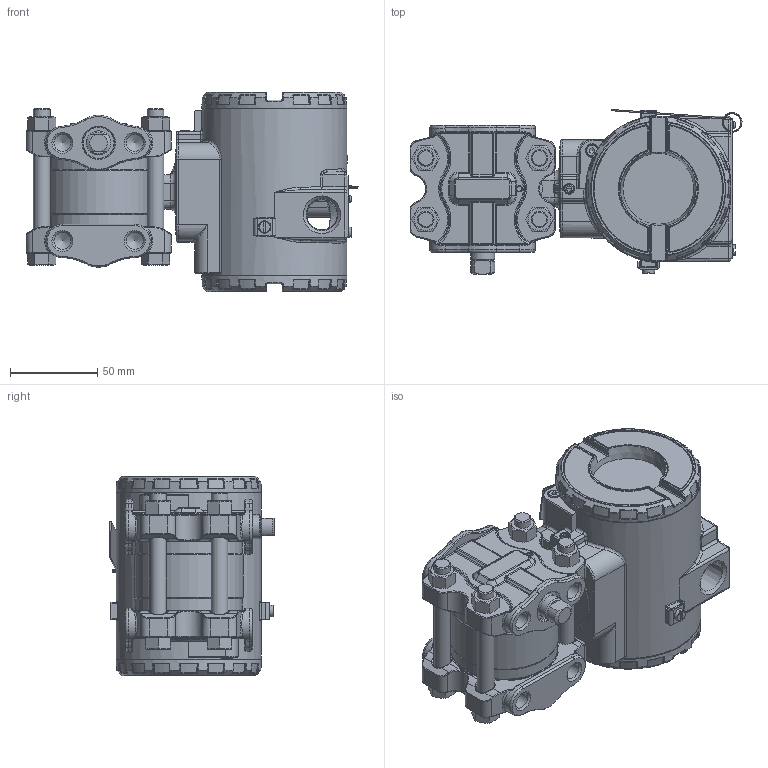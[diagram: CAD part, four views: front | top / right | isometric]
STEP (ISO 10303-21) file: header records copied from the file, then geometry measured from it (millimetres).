
FILE_DESCRIPTION(/* description */ (''),/* implementation_level */ '2;1');
FILE_NAME(/* name */ 'F:\Area\Desenvolvimento_2\Projects\Sensor\projetos\LD30X\montagens 3d - clientes\LD30XA4 1-4NPT sem purga.stp',/* time_stamp */ '2023-01-26T11:13:19-03:00',/* author */ ('inventor02'),/* organization */ (''),/* preprocessor_version */ 'ST-DEVELOPER v17',/* originating_system */ 'Autodesk Inventor 2019',/* authorisation */ '');
FILE_SCHEMA (('CONFIG_CONTROL_DESIGN'));
Length unit declared in the file: millimetre
Products named in the file (29): LD30XA4 1-4NPT sem purga; manometrico standard fx4 sem purga; Flange manometrico standard; flange diferencial std sem purga; bujao 1-4NPT; involucro fx4 apos a usinagem final; Paraf. 3-8 x 16 UNC; Porca 3-8 x 16 UNC; carcaça vazia com tampas e plaqueta; carcaça LD inox sem letras; Subconjunto plaqueta 300; Plaqueta transmissor; Parafuso da Plaqueta; Rebite da Plaqueta; 096-A-0169-03; 101-A-0502-01; Chapa aterramento externo; ISO 1207 - M4 x 8; DIN 915 - M6 x 10; ANSI B18.3.1M - M4x0,7 x 8; Subconjunto tampa com visor aluminio; tampa pintada; VIDRO DO VISOR; oring 41x1 vidro tampa; Trava do vidro da tampa com visor; trava do vidro VH256; Subconjunto tampa sem visor-aluminio; tampa cega 300 pintada p0; 00034775-0
Assembly tree (36 placements, depth 4):
  LD30XA4 1-4NPT sem purga
    manometrico standard fx4 sem purga
      Flange manometrico standard
      flange diferencial std sem purga
      bujao 1-4NPT
      involucro fx4 apos a usinagem final
      Paraf. 3-8 x 16 UNC  x4
      Porca 3-8 x 16 UNC  x4
    carcaça vazia com tampas e plaqueta
      carcaça LD inox sem letras
      Subconjunto plaqueta 300
        Plaqueta transmissor
        Parafuso da Plaqueta
        Rebite da Plaqueta
        096-A-0169-03
        101-A-0502-01
      Chapa aterramento externo
      ISO 1207 - M4 x 8
      DIN 915 - M6 x 10
      ANSI B18.3.1M - M4x0,7 x 8  x2
      Subconjunto tampa com visor aluminio
        tampa pintada
        VIDRO DO VISOR
        oring 41x1 vidro tampa
        Trava do vidro da tampa com visor
        trava do vidro VH256
        00034775-0
      Subconjunto tampa sem visor-aluminio
        tampa cega 300 pintada p0
        00034775-0
Bounding box: 189.78 x 94.3 x 114 mm (x, y, z)
Volume: 569859.5 mm3; surface area: 226392.6 mm2
Topology: 31 solids, 31 shells, 2602 faces, 6227 edges, 3647 vertices
Faces by surface type: bspline 729, cylinder 601, plane 492, torus 447, cone 221, sphere 112
Full cylindrical faces by diameter (mm): 2 x2, 2.1 x2, 2.459 x5, 2.642 x1, 2.7 x1, 3 x2, 3.242 x4, 3.5 x4, 3.571 x1, 4 x4, 4.3 x1, 4.4 x1, 4.917 x1, 5.5 x2, 6 x2, 7 x4, 7.087 x2, 7.6 x2, 7.798 x4, 8.7 x2, 9.525 x4, 9.728 x8, 10.5 x8, 10.719 x2, 13.8 x1, 14 x1, 17.475 x2, 18.5 x2, 32.1 x1, 34.6 x1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
Entity records: 92561 total; most frequent: CARTESIAN_POINT 36060, ORIENTED_EDGE 11882, DIRECTION 11393, EDGE_CURVE 5941, AXIS2_PLACEMENT_3D 5020, VERTEX_POINT 3521, CIRCLE 2952, EDGE_LOOP 2610
